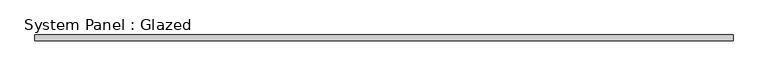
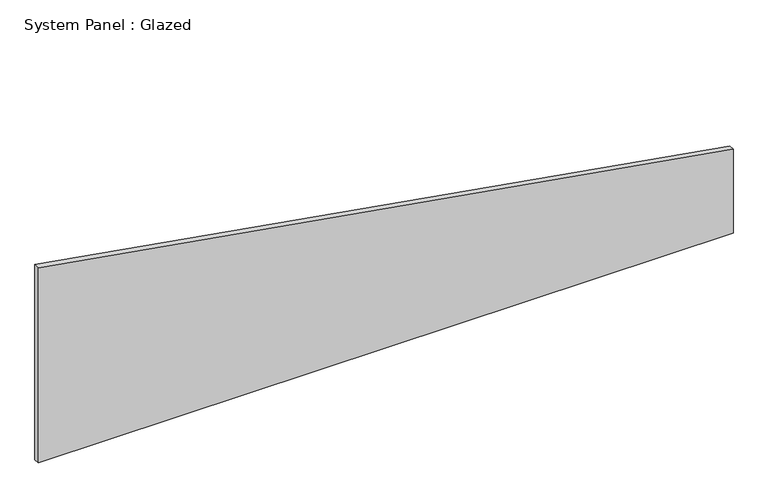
"""IFC4 building model written with IfcOpenShell, lengths in millimetres: plate geometry, System Panel : Glazed."""

from ifc_helpers import new_model, si_unit, frame, origin, place, context, project, spatial, polyline, outline, extrude, source, transform, mapped, element, save


def system_panel_glazed_51180f41(model_context):
    return source(origin(), model_context, "Body", "SweptSolid", [
        extrude(outline(polyline([(0.0, -1504.95), (0.0, 1504.95), (384.3200981, 1504.95), (893.1817877, -1504.95), (0.0, -1504.95)])), frame((0.0, 19.05, 0.0), z_axis=(0.0, 1.0, 0.0), x_axis=(0.0, 0.0, 1.0)), (0.0, 0.0, 1.0), 25.4),
    ])


if __name__ == "__main__":
    model = new_model("IFC4")
    model_context = context("Model", 3, world=origin())
    ifc_project = project(units=[si_unit("LENGTHUNIT", "METRE", prefix="MILLI")], contexts=[model_context])
    site = spatial("IfcSite", under=ifc_project)
    building = spatial("IfcBuilding", under=site)
    placement = place(None, origin())
    system_panel_glazed_shape = system_panel_glazed_51180f41(model_context)
    element("IfcPlate", 1, ObjectType="System Panel : Glazed", at=placement, inside=building, context=model_context, shape_type="MappedRepresentation", body=[
        mapped(system_panel_glazed_shape, transform((0.0, 0.0, 0.0), x_axis=(1.0, 0.0, 0.0), y_axis=(0.0, 1.0, 0.0), z_axis=(0.0, 0.0, 1.0))),
    ])
    save(model, "model.ifc")
